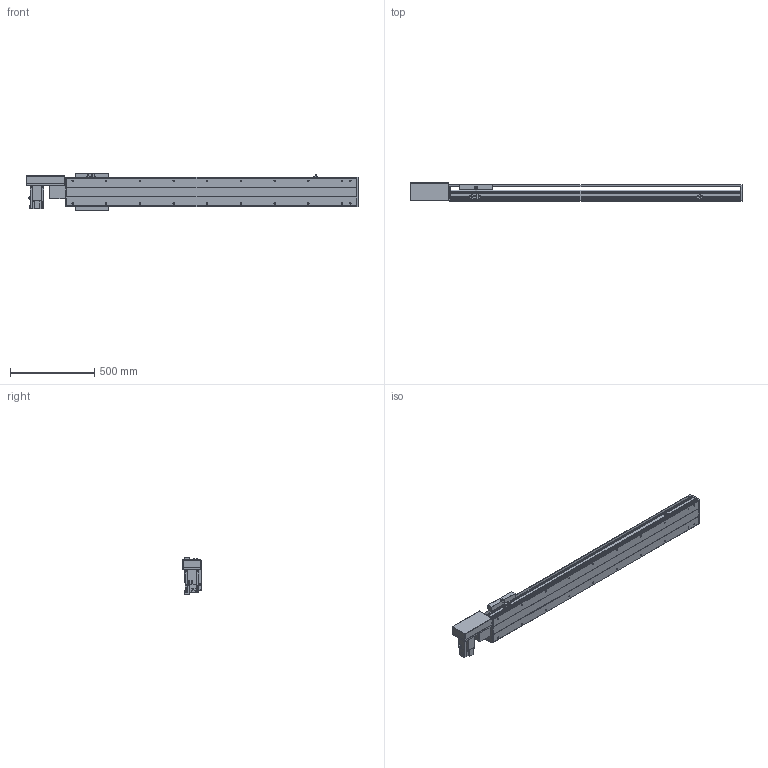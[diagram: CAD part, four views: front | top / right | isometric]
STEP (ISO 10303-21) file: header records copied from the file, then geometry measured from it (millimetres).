
FILE_DESCRIPTION(/* description */ ('STEP AP214'),/* implementation_level */ '2;1');
FILE_NAME(/* name */ 'PBS200-P40-S1350-R-T75-C1-N(0)',/* time_stamp */ '2022-06-11T08:06:10+02:00',/* author */ ('License CC BY-ND 4.0'),/* organization */ ('CADENAS'),/* preprocessor_version */ 'ST-DEVELOPER v18.102',/* originating_system */ 'PARTsolutions',/* authorisation */ ' ');
FILE_SCHEMA (('AUTOMOTIVE_DESIGN {1 0 10303 214 3 1 1}'));
Length unit declared in the file: millimetre
Products named in the file (7): PBS200-P40-S1350-R-T75-C1-N(0); PBS200_sensor; PBS200_plant; PBS200_sliser; T75-p1; PBS200T-R_motors; PBS200-S1350()_body
Assembly tree (8 placements, depth 2):
  PBS200-P40-S1350-R-T75-C1-N(0)
    PBS200_sensor  x3
    PBS200_plant
    PBS200_sliser
    T75-p1
    PBS200T-R_motors
    PBS200-S1350()_body
Bounding box: 1972 x 109 x 221 mm (x, y, z)
Volume: 13422427.9 mm3; surface area: 2164371.2 mm2
Topology: 8 solids, 8 shells, 932 faces, 2394 edges, 1560 vertices
Faces by surface type: plane 578, cylinder 302, cone 52
Full cylindrical faces by diameter (mm): 2.459 x6, 3.242 x4, 4.5 x6, 4.917 x4, 5 x6, 6 x7, 6.6 x8, 6.647 x24, 8 x6, 10 x4, 12 x8, 38 x2, 40 x1, 70 x1
Entity records: 24821 total; most frequent: DIRECTION 4375, CARTESIAN_POINT 4228, ORIENTED_EDGE 4006, EDGE_CURVE 2003, AXIS2_PLACEMENT_3D 1531, VERTEX_POINT 1384, LINE 1313, VECTOR 1313
